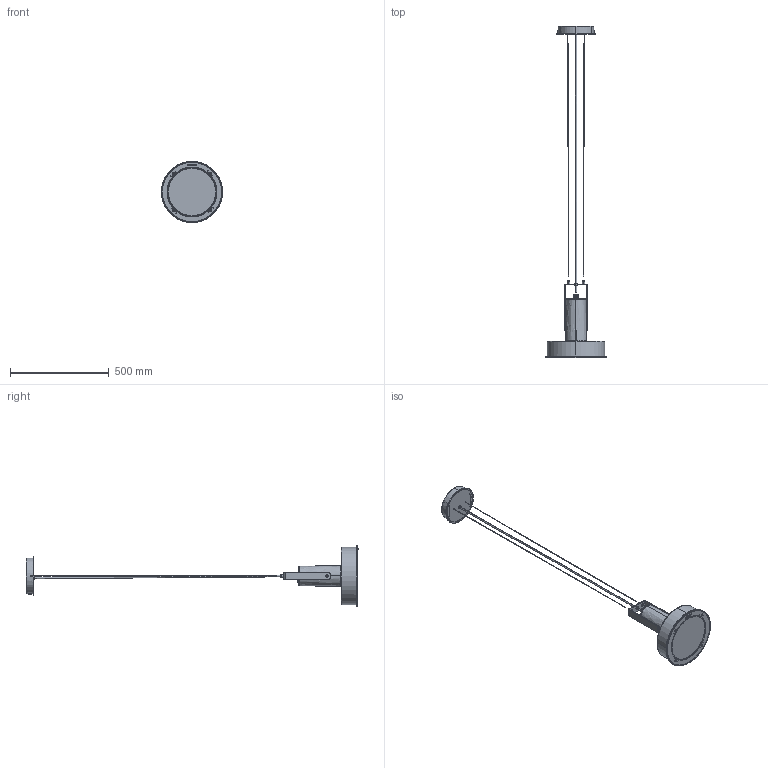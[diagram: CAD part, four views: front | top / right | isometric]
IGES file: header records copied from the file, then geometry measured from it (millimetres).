
Start section: SolidWorks IGES file using analytic representation for surfaces
Global section: file name: C:\SANTACOLE_PDM\Proyectos Catálogo\PROD-P12-019 -- ARNE PROYECTOR LED\6_Técnico comercial\3D WEB\IGES\Arne suspension 1.IGS; native system: SolidWorks 2013; preprocessor: SolidWorks 2013; author: jordi.munoz; date: 150513.133406; units: millimetre
Bounding box: 310 x 1682 x 310 mm (x, y, z)
Surface area: 870859.7 mm2 (no closed solid volume)
Topology: 0 solids, 0 shells, 1587 faces, 15926 edges, 15902 vertices
Faces by surface type: bspline 1029, revolution 558
